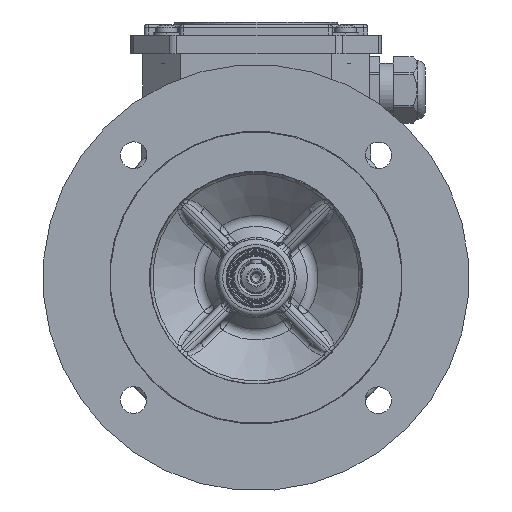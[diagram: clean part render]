
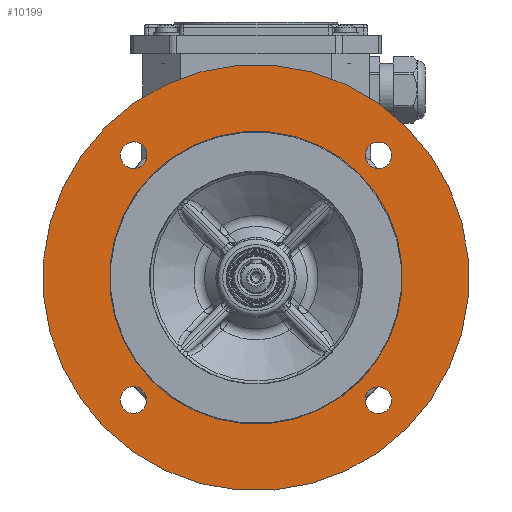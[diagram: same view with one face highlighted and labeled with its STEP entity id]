
A CAD part, front view. The second image highlights one B-rep face of the part: STEP entity #10199.
In plain terms, the highlighted planar face has unit normal (0, -1, 0).
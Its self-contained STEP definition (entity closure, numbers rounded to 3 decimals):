
#5899=FACE_BOUND('',#16731,.T.);
#5900=FACE_BOUND('',#16732,.T.);
#5901=FACE_BOUND('',#16733,.T.);
#5902=FACE_BOUND('',#16734,.T.);
#5903=FACE_BOUND('',#16735,.T.);
#5904=FACE_BOUND('',#16736,.T.);
#10199=ADVANCED_FACE('',(#5899,#5900,#5901,#5902,#5903,#5904),#12091,.T.);
#12091=PLANE('',#54766);
#16731=EDGE_LOOP('',(#26993));
#16732=EDGE_LOOP('',(#26994));
#16733=EDGE_LOOP('',(#26995));
#16734=EDGE_LOOP('',(#26996));
#16735=EDGE_LOOP('',(#26997));
#16736=EDGE_LOOP('',(#26998));
#26993=ORIENTED_EDGE('',*,*,#40420,.F.);
#26994=ORIENTED_EDGE('',*,*,#40421,.F.);
#26995=ORIENTED_EDGE('',*,*,#40422,.F.);
#26996=ORIENTED_EDGE('',*,*,#40423,.F.);
#26997=ORIENTED_EDGE('',*,*,#40424,.T.);
#26998=ORIENTED_EDGE('',*,*,#40425,.T.);
#34501=VERTEX_POINT('',#82800);
#34502=VERTEX_POINT('',#82802);
#34503=VERTEX_POINT('',#82804);
#34504=VERTEX_POINT('',#82806);
#34505=VERTEX_POINT('',#82808);
#34506=VERTEX_POINT('',#82810);
#40420=EDGE_CURVE('',#34501,#34501,#50040,.T.);
#40421=EDGE_CURVE('',#34502,#34502,#50041,.T.);
#40422=EDGE_CURVE('',#34503,#34503,#50042,.T.);
#40423=EDGE_CURVE('',#34504,#34504,#50043,.T.);
#40424=EDGE_CURVE('',#34505,#34505,#50044,.T.);
#40425=EDGE_CURVE('',#34506,#34506,#50045,.T.);
#50040=CIRCLE('',#54760,5.);
#50041=CIRCLE('',#54761,5.);
#50042=CIRCLE('',#54762,5.);
#50043=CIRCLE('',#54763,5.);
#50044=CIRCLE('',#54764,55.);
#50045=CIRCLE('',#54765,80.);
#54760=AXIS2_PLACEMENT_3D('',#82799,#65070,#65071);
#54761=AXIS2_PLACEMENT_3D('',#82801,#65072,#65073);
#54762=AXIS2_PLACEMENT_3D('',#82803,#65074,#65075);
#54763=AXIS2_PLACEMENT_3D('',#82805,#65076,#65077);
#54764=AXIS2_PLACEMENT_3D('',#82807,#65078,#65079);
#54765=AXIS2_PLACEMENT_3D('',#82809,#65080,#65081);
#54766=AXIS2_PLACEMENT_3D('',#82811,#65082,#65083);
#65070=DIRECTION('',(0.,-1.,0.));
#65071=DIRECTION('',(0.708,0.,0.707));
#65072=DIRECTION('',(0.,-1.,0.));
#65073=DIRECTION('',(-0.707,0.,0.708));
#65074=DIRECTION('',(0.,-1.,0.));
#65075=DIRECTION('',(-0.708,0.,-0.707));
#65076=DIRECTION('',(0.,-1.,0.));
#65077=DIRECTION('',(0.707,0.,-0.708));
#65078=DIRECTION('',(0.,1.,0.));
#65079=DIRECTION('',(0.707,0.,-0.708));
#65080=DIRECTION('',(0.,-1.,0.));
#65081=DIRECTION('',(0.707,0.,-0.708));
#65082=DIRECTION('',(0.,-1.,0.));
#65083=DIRECTION('',(-0.707,0.,0.708));
#82799=CARTESIAN_POINT('',(-45.934,-42.5,45.99));
#82800=CARTESIAN_POINT('',(-42.396,-42.5,49.523));
#82801=CARTESIAN_POINT('',(-45.99,-42.5,-45.934));
#82802=CARTESIAN_POINT('',(-49.523,-42.5,-42.396));
#82803=CARTESIAN_POINT('',(45.934,-42.5,-45.99));
#82804=CARTESIAN_POINT('',(42.396,-42.5,-49.523));
#82805=CARTESIAN_POINT('',(45.99,-42.5,45.934));
#82806=CARTESIAN_POINT('',(49.523,-42.5,42.396));
#82807=CARTESIAN_POINT('',(0.,-42.5,0.));
#82808=CARTESIAN_POINT('',(38.867,-42.5,-38.915));
#82809=CARTESIAN_POINT('',(0.,-42.5,0.));
#82810=CARTESIAN_POINT('',(56.534,-42.5,-56.603));
#82811=CARTESIAN_POINT('',(0.,-42.5,0.));
